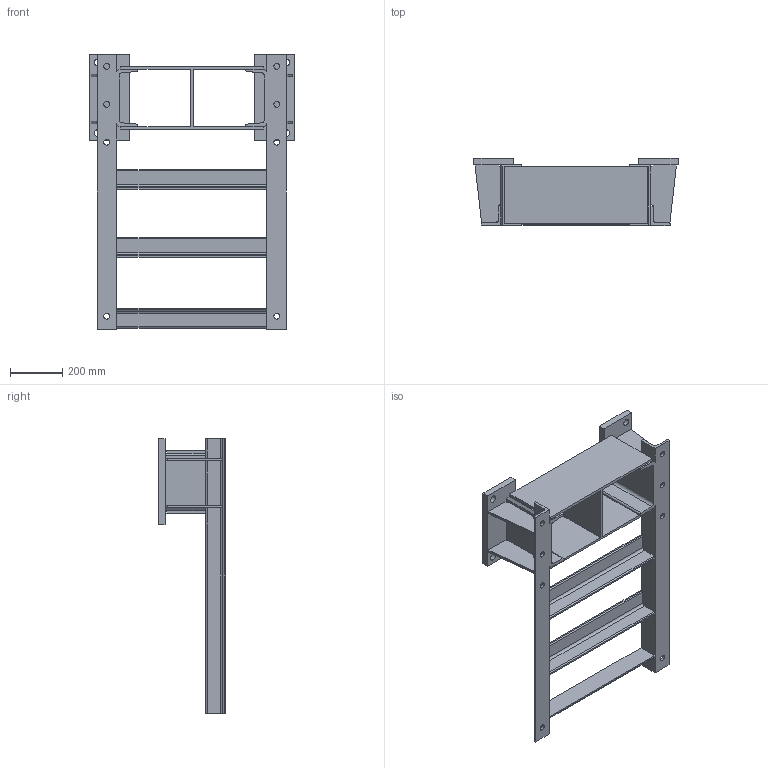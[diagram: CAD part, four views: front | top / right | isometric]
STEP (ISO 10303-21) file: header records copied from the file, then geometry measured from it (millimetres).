
FILE_DESCRIPTION(/* description */ (''),/* implementation_level */ '2;1');
FILE_NAME(/* name */ 'K:\NEMANJA\0700-6\CABLE REEL PART\0700-6\11 DMF\STEP\52712.stp',/* time_stamp */ '2017-11-30T18:21:34+01:00',/* author */ ('zeldjo01'),/* organization */ ('Hillmar Industries Ltd.'),/* preprocessor_version */ 'ST-DEVELOPER v16.1',/* originating_system */ 'Autodesk Inventor 2016',/* authorisation */ '');
FILE_SCHEMA (('AUTOMOTIVE_DESIGN { 1 0 10303 214 3 1 1 }'));
Length unit declared in the file: millimetre
Products named in the file (1): 52712 DMF-GB50-06-10-15KV MOUNTING FRAME_Shrinkwrap_1
Bounding box: 780 x 256 x 1050 mm (x, y, z)
Volume: 13074394.3 mm3; surface area: 2265673.6 mm2
Topology: 1 solids, 1 shells, 169 faces, 541 edges, 346 vertices
Faces by surface type: plane 134, cylinder 35
Full cylindrical faces by diameter (mm): 22 x8, 27 x4
Entity records: 6005 total; most frequent: ORIENTED_EDGE 1034, CARTESIAN_POINT 1021, DIRECTION 931, EDGE_CURVE 517, LINE 443, VECTOR 443, VERTEX_POINT 334, AXIS2_PLACEMENT_3D 244
